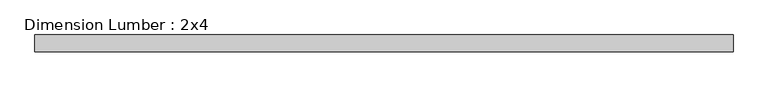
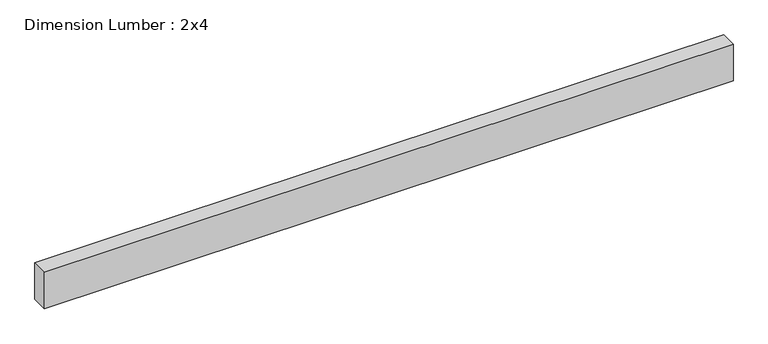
"""IFC4 building model written with IfcOpenShell, lengths in millimetres: beam geometry, Dimension Lumber : 2x4."""

from ifc_helpers import new_model, si_unit, frame, origin, place, context, project, spatial, polyline, outline, extrude, source, transform, mapped, element, save


def dimension_lumber_2x4_ab09c82d(model_context):
    return source(origin(), model_context, "Body", "SweptSolid", [
        extrude(outline(polyline([(792.4270833, 19.05), (792.4270833, -19.05), (-792.4270833, -19.05), (-792.4270833, 19.05), (792.4270833, 19.05)])), frame((0.0, 0.0, -44.45), z_axis=(0.0, 0.0, 1.0), x_axis=(1.0, 0.0, 0.0)), (0.0, 0.0, 1.0), 88.9),
    ])


if __name__ == "__main__":
    model = new_model("IFC4")
    model_context = context("Model", 3, world=origin())
    ifc_project = project(units=[si_unit("LENGTHUNIT", "METRE", prefix="MILLI")], contexts=[model_context])
    site = spatial("IfcSite", under=ifc_project)
    building = spatial("IfcBuilding", under=site)
    placement = place(None, origin())
    dimension_lumber_2x4_shape = dimension_lumber_2x4_ab09c82d(model_context)
    element("IfcBeam", 1, ObjectType="Dimension Lumber : 2x4", at=placement, inside=building, context=model_context, shape_type="MappedRepresentation", body=[
        mapped(dimension_lumber_2x4_shape, transform((0.0, 0.0, 0.0), x_axis=(1.0, 0.0, 0.0), y_axis=(0.0, 1.0, 0.0), z_axis=(0.0, 0.0, 1.0))),
    ])
    save(model, "model.ifc")
